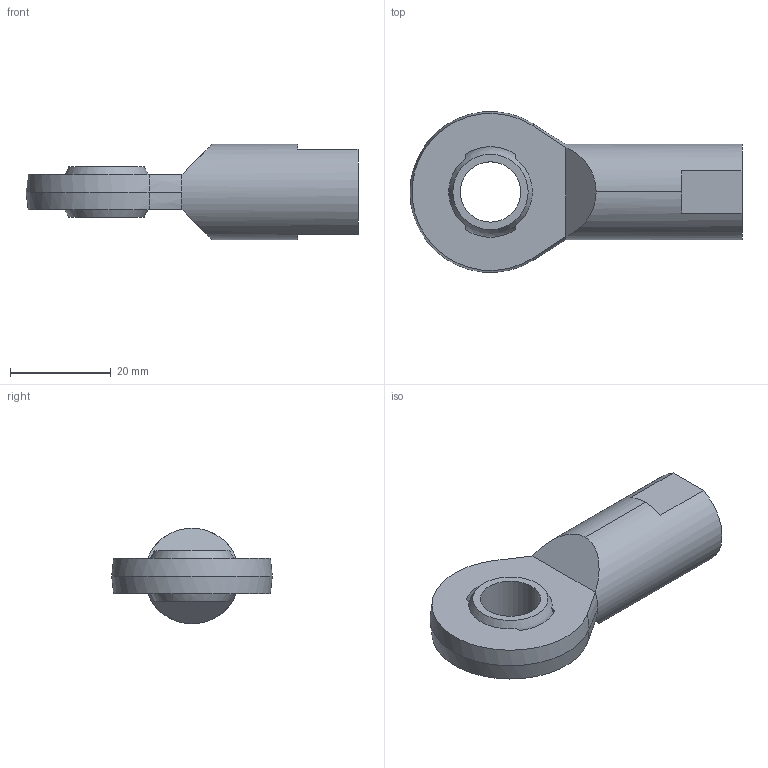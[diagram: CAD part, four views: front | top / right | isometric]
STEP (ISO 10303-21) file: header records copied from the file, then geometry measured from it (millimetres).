
FILE_DESCRIPTION (( 'STEP AP203' ), '1' );
FILE_NAME ('65880.W0213.step', '2014-02-06T18:31:37', ( 'User' ), ( '' ), 'SwSTEP 2.0', 'SolidWorks 2009', '' );
FILE_SCHEMA (( 'CONFIG_CONTROL_DESIGN' ));
Length unit declared in the file: millimetre
Products named in the file (3): Part1_65880.W0213; Part2_65880.W0213; 65880.W0213
Assembly tree (2 placements, depth 2):
  65880.W0213
    Part2_65880.W0213
    Part1_65880.W0213
Bounding box: 66 x 31.93 x 19 mm (x, y, z)
Volume: 11540.6 mm3; surface area: 6473.4 mm2
Topology: 2 solids, 2 shells, 45 faces, 108 edges, 67 vertices
Faces by surface type: plane 20, cylinder 10, sphere 8, cone 7
Entity records: 1616 total; most frequent: DIRECTION 253, CARTESIAN_POINT 245, ORIENTED_EDGE 208, AXIS2_PLACEMENT_3D 107, EDGE_CURVE 104, VERTEX_POINT 67, CIRCLE 57, EDGE_LOOP 53
